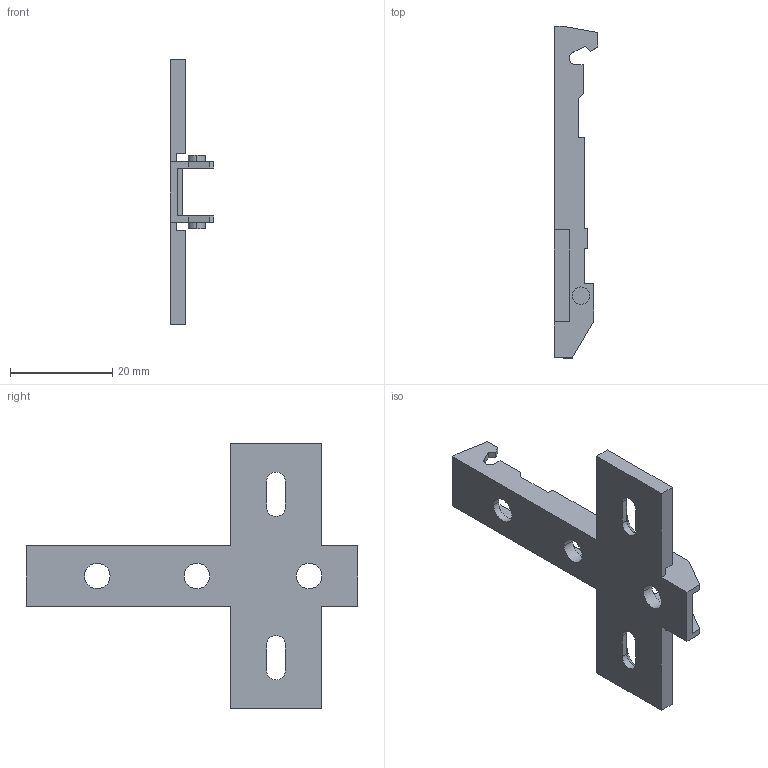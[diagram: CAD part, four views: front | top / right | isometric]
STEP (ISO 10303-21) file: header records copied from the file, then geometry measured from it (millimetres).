
FILE_DESCRIPTION (( 'STEP AP214' ), '1' );
FILE_NAME ('Eco Kreuzmontageplatte LR28_32_Spax_H-02.step', '2010-11-18T10:05:36', ( 'grass' ), ( '' ), 'SwSTEP 2.0', 'SolidWorks 2010', '' );
FILE_SCHEMA (( 'AUTOMOTIVE_DESIGN' ));
Length unit declared in the file: millimetre
Products named in the file (1): Eco Kreuzmontageplatte LR28_32_Spax_H-02
Bounding box: 8.5 x 65 x 52 mm (x, y, z)
Volume: 3793.1 mm3; surface area: 4721.9 mm2
Topology: 1 solids, 1 shells, 89 faces, 247 edges, 162 vertices
Faces by surface type: plane 69, cylinder 16, cone 4
Entity records: 2867 total; most frequent: CARTESIAN_POINT 499, ORIENTED_EDGE 494, DIRECTION 463, EDGE_CURVE 247, LINE 211, VECTOR 211, VERTEX_POINT 162, AXIS2_PLACEMENT_3D 126
